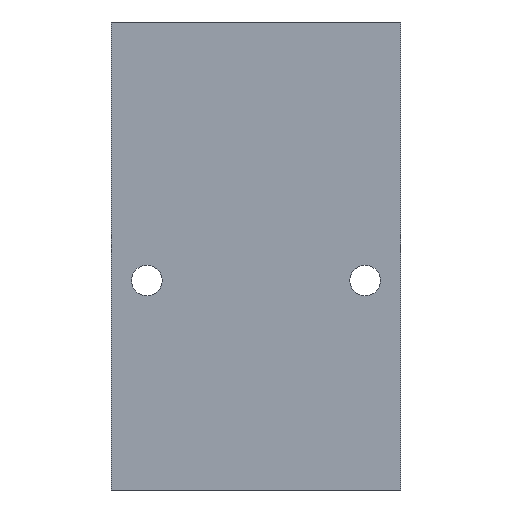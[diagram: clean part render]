
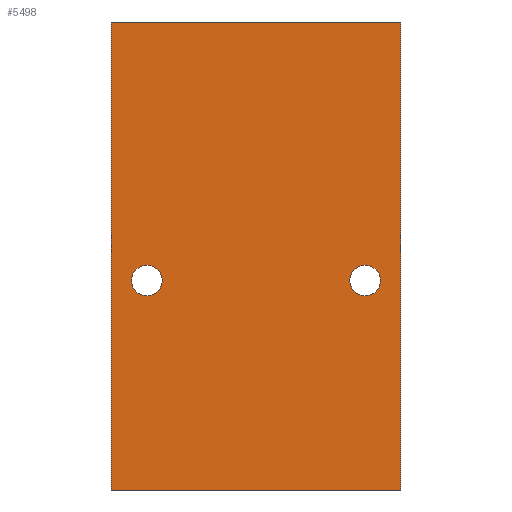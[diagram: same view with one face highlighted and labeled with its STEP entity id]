
A CAD part, front view. The second image highlights one B-rep face of the part: STEP entity #5498.
In plain terms, the highlighted planar face has unit normal (0, -1, 0).
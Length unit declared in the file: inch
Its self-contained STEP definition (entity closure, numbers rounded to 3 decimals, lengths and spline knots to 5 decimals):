
#32 = EDGE_CURVE ( 'NONE', #4957, #4492, #2792, .T. ) ;
#135 = CIRCLE ( 'NONE', #9300, 0.172 ) ;
#137 = EDGE_CURVE ( 'NONE', #7747, #4492, #8482, .T. ) ;
#148 = EDGE_CURVE ( 'NONE', #5332, #7747, #2547, .T. ) ;
#280 = ORIENTED_EDGE ( 'NONE', *, *, #148, .F. ) ;
#375 = EDGE_CURVE ( 'NONE', #2580, #7199, #8249, .T. ) ;
#562 = ORIENTED_EDGE ( 'NONE', *, *, #8174, .T. ) ;
#848 = VECTOR ( 'NONE', #8741, 39.37008 ) ;
#1102 = CIRCLE ( 'NONE', #9362, 0.172 ) ;
#1273 = CARTESIAN_POINT ( 'NONE',  ( 0.4, 0., -3.072 ) ) ;
#1296 = DIRECTION ( 'NONE',  ( 0., 0., 1. ) ) ;
#1309 = DIRECTION ( 'NONE',  ( 0., 1., 0. ) ) ;
#1320 = CARTESIAN_POINT ( 'NONE',  ( 2.85, 0., -2.9 ) ) ;
#1402 = FACE_BOUND ( 'NONE', #3076, .T. ) ;
#1457 = ORIENTED_EDGE ( 'NONE', *, *, #9256, .T. ) ;
#1521 = ORIENTED_EDGE ( 'NONE', *, *, #3204, .T. ) ;
#1618 = FACE_OUTER_BOUND ( 'NONE', #5903, .T. ) ;
#2072 = VECTOR ( 'NONE', #8297, 39.37008 ) ;
#2196 = CARTESIAN_POINT ( 'NONE',  ( 3.25, 0., 0. ) ) ;
#2264 = AXIS2_PLACEMENT_3D ( 'NONE', #8009, #7997, #7996 ) ;
#2313 = VECTOR ( 'NONE', #8384, 39.37008 ) ;
#2547 = LINE ( 'NONE', #8376, #2072 ) ;
#2580 = VERTEX_POINT ( 'NONE', #5305 ) ;
#2592 = VECTOR ( 'NONE', #3155, 39.37008 ) ;
#2792 = LINE ( 'NONE', #8784, #848 ) ;
#2818 = EDGE_LOOP ( 'NONE', ( #1457, #562 ) ) ;
#3076 = EDGE_LOOP ( 'NONE', ( #4242, #1521 ) ) ;
#3155 = DIRECTION ( 'NONE',  ( -1., 0., 0. ) ) ;
#3204 = EDGE_CURVE ( 'NONE', #7199, #2580, #9071, .T. ) ;
#3329 = CARTESIAN_POINT ( 'NONE',  ( 3.25, 0., 0. ) ) ;
#3392 = CARTESIAN_POINT ( 'NONE',  ( 0., 0., -5.25 ) ) ;
#3403 = CARTESIAN_POINT ( 'NONE',  ( 3.25, 0., -5.25 ) ) ;
#3712 = CARTESIAN_POINT ( 'NONE',  ( 0.4, 0., -2.728 ) ) ;
#4035 = DIRECTION ( 'NONE',  ( 0., 0., 1. ) ) ;
#4043 = DIRECTION ( 'NONE',  ( 0., 1., 0. ) ) ;
#4049 = CARTESIAN_POINT ( 'NONE',  ( 0.4, 0., -2.9 ) ) ;
#4242 = ORIENTED_EDGE ( 'NONE', *, *, #375, .T. ) ;
#4388 = AXIS2_PLACEMENT_3D ( 'NONE', #1320, #1309, #1296 ) ;
#4492 = VERTEX_POINT ( 'NONE', #3392 ) ;
#4572 = LINE ( 'NONE', #3329, #2592 ) ;
#4957 = VERTEX_POINT ( 'NONE', #6183 ) ;
#5305 = CARTESIAN_POINT ( 'NONE',  ( 2.85, 0., -2.728 ) ) ;
#5332 = VERTEX_POINT ( 'NONE', #2196 ) ;
#5498 = ADVANCED_FACE ( 'NONE', ( #9454, #1402, #1618 ), #9201, .F. ) ;
#5903 = EDGE_LOOP ( 'NONE', ( #8520, #9593, #280, #6708 ) ) ;
#6183 = CARTESIAN_POINT ( 'NONE',  ( 0., 0., 0. ) ) ;
#6195 = VERTEX_POINT ( 'NONE', #3712 ) ;
#6684 = VERTEX_POINT ( 'NONE', #1273 ) ;
#6708 = ORIENTED_EDGE ( 'NONE', *, *, #9445, .T. ) ;
#7199 = VERTEX_POINT ( 'NONE', #8754 ) ;
#7747 = VERTEX_POINT ( 'NONE', #3403 ) ;
#7934 = DIRECTION ( 'NONE',  ( 0., 0., 1. ) ) ;
#7939 = DIRECTION ( 'NONE',  ( 0., 1., 0. ) ) ;
#7945 = CARTESIAN_POINT ( 'NONE',  ( 0.4, 0., -2.9 ) ) ;
#7996 = DIRECTION ( 'NONE',  ( 0., 0., 1. ) ) ;
#7997 = DIRECTION ( 'NONE',  ( 0., 1., 0. ) ) ;
#8009 = CARTESIAN_POINT ( 'NONE',  ( 2.85, 0., -2.9 ) ) ;
#8174 = EDGE_CURVE ( 'NONE', #6684, #6195, #1102, .T. ) ;
#8249 = CIRCLE ( 'NONE', #2264, 0.172 ) ;
#8297 = DIRECTION ( 'NONE',  ( 0., 0., -1. ) ) ;
#8364 = CARTESIAN_POINT ( 'NONE',  ( 3.25, 0., -5.25 ) ) ;
#8376 = CARTESIAN_POINT ( 'NONE',  ( 3.25, 0., 0. ) ) ;
#8384 = DIRECTION ( 'NONE',  ( -1., 0., 0. ) ) ;
#8482 = LINE ( 'NONE', #8364, #2313 ) ;
#8520 = ORIENTED_EDGE ( 'NONE', *, *, #32, .T. ) ;
#8620 = AXIS2_PLACEMENT_3D ( 'NONE', #9252, #9185, #9176 ) ;
#8741 = DIRECTION ( 'NONE',  ( 0., 0., -1. ) ) ;
#8754 = CARTESIAN_POINT ( 'NONE',  ( 2.85, 0., -3.072 ) ) ;
#8784 = CARTESIAN_POINT ( 'NONE',  ( 0., 0., 0. ) ) ;
#9071 = CIRCLE ( 'NONE', #4388, 0.172 ) ;
#9176 = DIRECTION ( 'NONE',  ( 0., 0., 1. ) ) ;
#9185 = DIRECTION ( 'NONE',  ( 0., 1., 0. ) ) ;
#9201 = PLANE ( 'NONE',  #8620 ) ;
#9252 = CARTESIAN_POINT ( 'NONE',  ( 3.25, 0., 0. ) ) ;
#9256 = EDGE_CURVE ( 'NONE', #6195, #6684, #135, .T. ) ;
#9300 = AXIS2_PLACEMENT_3D ( 'NONE', #4049, #4043, #4035 ) ;
#9362 = AXIS2_PLACEMENT_3D ( 'NONE', #7945, #7939, #7934 ) ;
#9445 = EDGE_CURVE ( 'NONE', #5332, #4957, #4572, .T. ) ;
#9454 = FACE_BOUND ( 'NONE', #2818, .T. ) ;
#9593 = ORIENTED_EDGE ( 'NONE', *, *, #137, .F. ) ;
